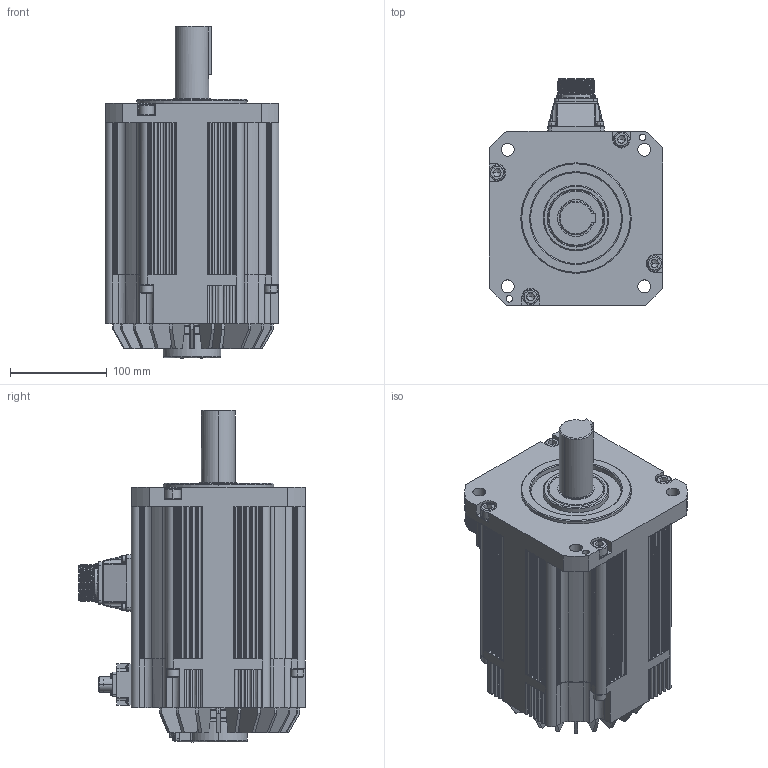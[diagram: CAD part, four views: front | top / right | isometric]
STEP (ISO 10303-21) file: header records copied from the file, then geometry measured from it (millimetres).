
FILE_DESCRIPTION (( 'STEP AP203' ), '1' );
FILE_NAME ('TSM3610N7376E710.STEP', '2018-07-04T09:12:23', ( '' ), ( '' ), 'SwSTEP 2.0', 'SolidWorks 2017', '' );
FILE_SCHEMA (( 'CONFIG_CONTROL_DESIGN' ));
Products named in the file (1): TSM3610N7376E710
Bounding box: 180 x 234.5 x 343.5 mm (x, y, z)
Volume: 6587059.2 mm3; surface area: 377549.4 mm2
Topology: 1 solids, 20 shells, 2819 faces, 7499 edges, 4818 vertices
Faces by surface type: plane 1514, cylinder 748, bspline 404, cone 139, torus 14
Entity records: 108945 total; most frequent: CARTESIAN_POINT 42379, ORIENTED_EDGE 14882, DIRECTION 12217, EDGE_CURVE 7441, VERTEX_POINT 4818, LINE 4509, VECTOR 4509, AXIS2_PLACEMENT_3D 3854
